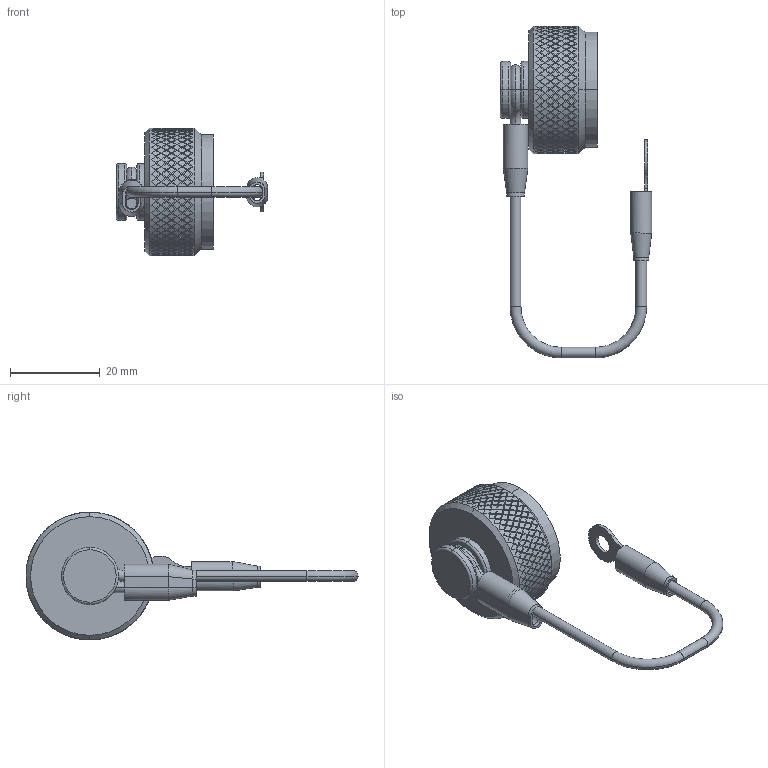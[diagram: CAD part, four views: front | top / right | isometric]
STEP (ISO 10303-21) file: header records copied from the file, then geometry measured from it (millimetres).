
FILE_DESCRIPTION (( 'STEP AP214' ), '1' );
FILE_NAME ('Q38DC-RFX-13-R1.STEP', '2026-04-22T19:09:12', ( '' ), ( '' ), 'SwSTEP 2.0', 'SolidWorks 2024', '' );
FILE_SCHEMA (( 'AUTOMOTIVE_DESIGN' ));
Length unit declared in the file: inch
Products named in the file (9): Q38DC-RFX-13-R1; HEAT SHRINK_HS-125-625S; HEAT SHRINK_HS-250X625_SW-348; SW-347; Q38-XX48-X_Q38-1348-X; SW-348; LN-06-07-13_Q38DC-RFX-13 (Assembled); Q38-XX29-P_13R; Lanyard Assembly Q38_Q38DC-RFX-13
Assembly tree (8 placements, depth 3):
  Q38DC-RFX-13-R1
    Q38-XX48-X_Q38-1348-X
    Lanyard Assembly Q38_Q38DC-RFX-13
      LN-06-07-13_Q38DC-RFX-13 (Assembled)
      SW-348
      HEAT SHRINK_HS-250X625_SW-348
      SW-347
      HEAT SHRINK_HS-125-625S
    Q38-XX29-P_13R
Bounding box: 33.64 x 73.81 x 28.4 mm (x, y, z)
Volume: 6437.2 mm3; surface area: 7466.7 mm2
Topology: 7 solids, 7 shells, 2232 faces, 5513 edges, 3651 vertices
Faces by surface type: plane 1701, cylinder 491, torus 20, bspline 14, cone 6
Entity records: 66571 total; most frequent: CARTESIAN_POINT 23175, ORIENTED_EDGE 11026, DIRECTION 6776, EDGE_CURVE 5513, VERTEX_POINT 3651, EDGE_LOOP 2598, AXIS2_PLACEMENT_3D 2488, FACE_OUTER_BOUND 2232
